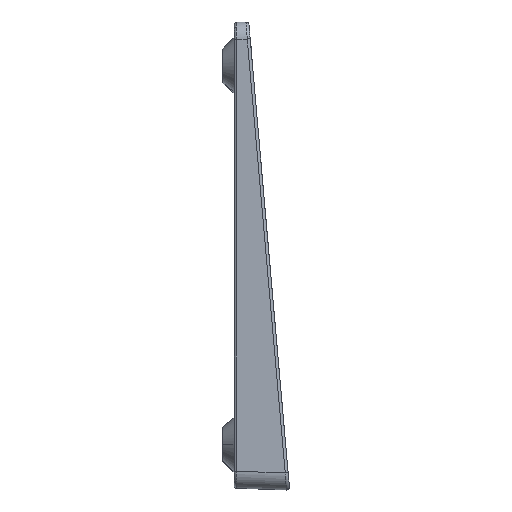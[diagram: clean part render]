
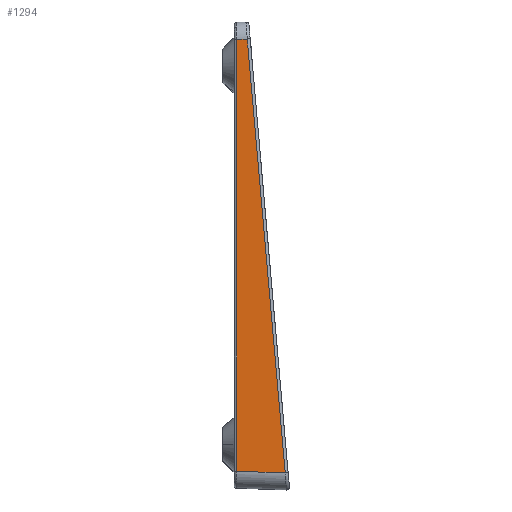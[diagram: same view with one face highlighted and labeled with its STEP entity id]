
A CAD part, left-side view. The second image highlights one B-rep face of the part: STEP entity #1294.
In plain terms, the highlighted planar face has unit normal (-0.999, 0.035, 0).
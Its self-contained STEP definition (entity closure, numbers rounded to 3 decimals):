
#181 = CARTESIAN_POINT ( 'NONE',  ( -41.017, -32.813, 63.1 ) ) ;
#226 = CARTESIAN_POINT ( 'NONE',  ( -41.081, -34.658, 38.083 ) ) ;
#355 = EDGE_CURVE ( 'NONE', #25720, #16882, #11104, .T. ) ;
#1147 = DIRECTION ( 'NONE',  ( 0.003, 0.087, 0.996 ) ) ;
#1294 = ADVANCED_FACE ( 'NONE', ( #18541 ), #6662, .T. ) ;
#2658 = VECTOR ( 'NONE', #11018, 1000. ) ;
#4422 = DIRECTION ( 'NONE',  ( 0.035, 0.999, 0. ) ) ;
#6367 = VERTEX_POINT ( 'NONE', #24825 ) ;
#6662 = PLANE ( 'NONE',  #25178 ) ;
#6799 = VECTOR ( 'NONE', #1147, 1000. ) ;
#7370 = EDGE_CURVE ( 'NONE', #16882, #12338, #14946, .T. ) ;
#8276 = LINE ( 'NONE', #10371, #22336 ) ;
#8659 = DIRECTION ( 'NONE',  ( -0.035, -0.999, -0.035 ) ) ;
#10371 = CARTESIAN_POINT ( 'NONE',  ( -40.877, -28.809, -37.879 ) ) ;
#10459 = CARTESIAN_POINT ( 'NONE',  ( -41., -32.331, 63.1 ) ) ;
#10886 = EDGE_CURVE ( 'NONE', #6367, #25720, #8276, .T. ) ;
#11018 = DIRECTION ( 'NONE',  ( 0.035, 0.999, -0.035 ) ) ;
#11104 = LINE ( 'NONE', #19059, #6799 ) ;
#11975 = DIRECTION ( 'NONE',  ( 0., 0., -1. ) ) ;
#12176 = ORIENTED_EDGE ( 'NONE', *, *, #12689, .T. ) ;
#12338 = VERTEX_POINT ( 'NONE', #19438 ) ;
#12689 = EDGE_CURVE ( 'NONE', #12338, #6367, #25561, .T. ) ;
#14632 = DIRECTION ( 'NONE',  ( -0.999, 0.035, 0. ) ) ;
#14946 = LINE ( 'NONE', #22917, #2658 ) ;
#16882 = VERTEX_POINT ( 'NONE', #226 ) ;
#18541 = FACE_OUTER_BOUND ( 'NONE', #19530, .T. ) ;
#19059 = CARTESIAN_POINT ( 'NONE',  ( -41.005, -32.468, 63.112 ) ) ;
#19329 = ORIENTED_EDGE ( 'NONE', *, *, #10886, .T. ) ;
#19438 = CARTESIAN_POINT ( 'NONE',  ( -41.017, -32.813, 38.019 ) ) ;
#19530 = EDGE_LOOP ( 'NONE', ( #19329, #22172, #20763, #12176 ) ) ;
#20763 = ORIENTED_EDGE ( 'NONE', *, *, #7370, .T. ) ;
#22172 = ORIENTED_EDGE ( 'NONE', *, *, #355, .T. ) ;
#22336 = VECTOR ( 'NONE', #8659, 1000. ) ;
#22917 = CARTESIAN_POINT ( 'NONE',  ( -41.031, -33.205, 38.032 ) ) ;
#23193 = VECTOR ( 'NONE', #11975, 1000. ) ;
#23330 = CARTESIAN_POINT ( 'NONE',  ( -41.315, -41.342, -38.317 ) ) ;
#24825 = CARTESIAN_POINT ( 'NONE',  ( -41.017, -32.813, -38.019 ) ) ;
#25178 = AXIS2_PLACEMENT_3D ( 'NONE', #10459, #14632, #4422 ) ;
#25561 = LINE ( 'NONE', #181, #23193 ) ;
#25720 = VERTEX_POINT ( 'NONE', #23330 ) ;
